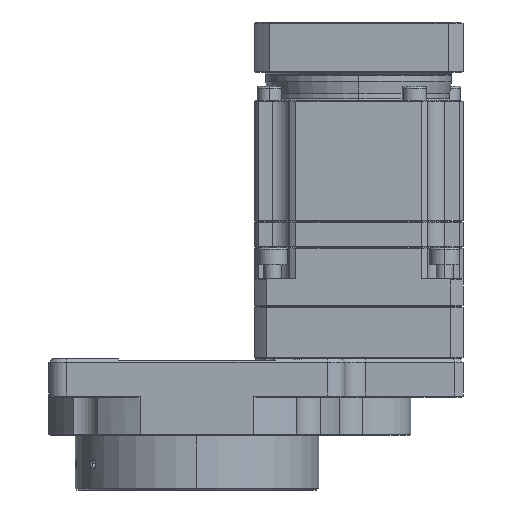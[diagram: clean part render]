
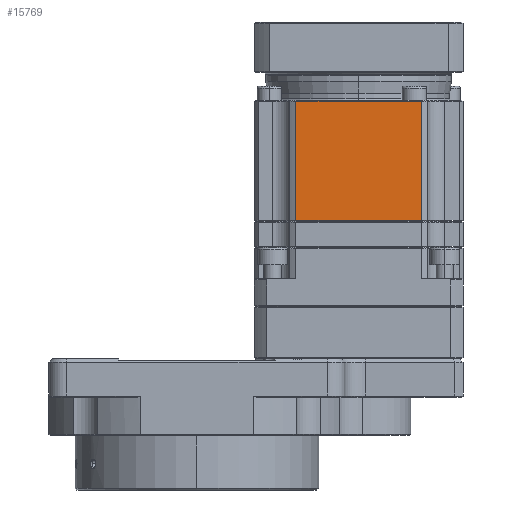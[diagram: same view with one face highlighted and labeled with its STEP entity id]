
A CAD part, left-side view. The second image highlights one B-rep face of the part: STEP entity #15769.
In plain terms, the highlighted planar face has unit normal (-1, 0, 0).
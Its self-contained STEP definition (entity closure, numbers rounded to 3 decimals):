
#2135 = AXIS2_PLACEMENT_3D ( 'NONE', #5202, #5211, #5217 ) ;
#4182 = FACE_OUTER_BOUND ( 'NONE', #32778, .T. ) ;
#5202 = CARTESIAN_POINT ( 'NONE',  ( -30., -26.751, -5.7 ) ) ;
#5211 = DIRECTION ( 'NONE',  ( -1., 0., 0. ) ) ;
#5217 = DIRECTION ( 'NONE',  ( 0., -1., 0. ) ) ;
#5231 = PLANE ( 'NONE',  #2135 ) ;
#12870 = VECTOR ( 'NONE', #14951, 1000. ) ;
#12881 = LINE ( 'NONE', #14970, #12870 ) ;
#12891 = LINE ( 'NONE', #16142, #12911 ) ;
#12911 = VECTOR ( 'NONE', #16143, 1000. ) ;
#14951 = DIRECTION ( 'NONE',  ( 0., -1., 0. ) ) ;
#14970 = CARTESIAN_POINT ( 'NONE',  ( -30., -63.938, 39.8 ) ) ;
#15769 = ADVANCED_FACE ( 'NONE', ( #4182 ), #5231, .T. ) ;
#16142 = CARTESIAN_POINT ( 'NONE',  ( -30., -64.528, 39.5 ) ) ;
#16143 = DIRECTION ( 'NONE',  ( 0., 0., 1. ) ) ;
#19946 = VECTOR ( 'NONE', #21639, 1000. ) ;
#19971 = LINE ( 'NONE', #21631, #19946 ) ;
#20005 = VECTOR ( 'NONE', #21681, 1000. ) ;
#20007 = LINE ( 'NONE', #21677, #20005 ) ;
#21631 = CARTESIAN_POINT ( 'NONE',  ( -30., -28.472, 39.5 ) ) ;
#21639 = DIRECTION ( 'NONE',  ( 0., 0., -1. ) ) ;
#21677 = CARTESIAN_POINT ( 'NONE',  ( -30., -29.062, 74. ) ) ;
#21681 = DIRECTION ( 'NONE',  ( 0., 1., 0. ) ) ;
#22172 = CARTESIAN_POINT ( 'NONE',  ( -30., -64.528, 74. ) ) ;
#22186 = CARTESIAN_POINT ( 'NONE',  ( -30., -28.472, 74. ) ) ;
#22189 = CARTESIAN_POINT ( 'NONE',  ( -30., -28.472, 39.8 ) ) ;
#22230 = CARTESIAN_POINT ( 'NONE',  ( -30., -64.528, 39.8 ) ) ;
#28810 = EDGE_CURVE ( 'NONE', #31227, #31192, #12881, .T. ) ;
#28857 = EDGE_CURVE ( 'NONE', #31192, #31194, #12891, .T. ) ;
#29780 = EDGE_CURVE ( 'NONE', #31224, #31227, #19971, .T. ) ;
#29799 = EDGE_CURVE ( 'NONE', #31194, #31224, #20007, .T. ) ;
#31192 = VERTEX_POINT ( 'NONE', #22230 ) ;
#31194 = VERTEX_POINT ( 'NONE', #22172 ) ;
#31224 = VERTEX_POINT ( 'NONE', #22186 ) ;
#31227 = VERTEX_POINT ( 'NONE', #22189 ) ;
#32279 = ORIENTED_EDGE ( 'NONE', *, *, #28810, .T. ) ;
#32289 = ORIENTED_EDGE ( 'NONE', *, *, #29799, .T. ) ;
#32298 = ORIENTED_EDGE ( 'NONE', *, *, #28857, .T. ) ;
#32334 = ORIENTED_EDGE ( 'NONE', *, *, #29780, .T. ) ;
#32778 = EDGE_LOOP ( 'NONE', ( #32334, #32279, #32298, #32289 ) ) ;
